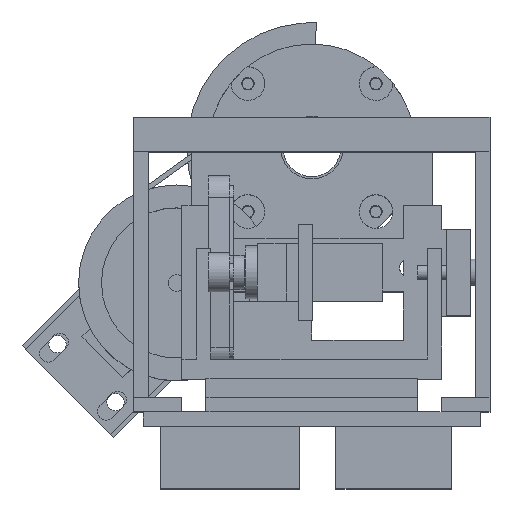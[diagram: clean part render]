
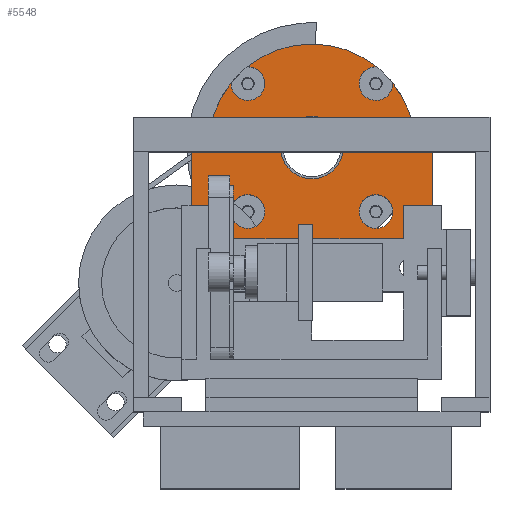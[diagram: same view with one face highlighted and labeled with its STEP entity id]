
A CAD part, top view. The second image highlights one B-rep face of the part: STEP entity #5548.
In plain terms, the highlighted planar face has unit normal (0, 0, 1).
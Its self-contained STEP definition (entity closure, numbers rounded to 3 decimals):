
#5510 = EDGE_CURVE('',#5511,#5513,#5515,.T.);
#5511 = VERTEX_POINT('',#5512);
#5512 = CARTESIAN_POINT('',(61.,113.,179.5));
#5513 = VERTEX_POINT('',#5514);
#5514 = CARTESIAN_POINT('',(56.291,126.428,179.5));
#5515 = CIRCLE('',#5516,21.5);
#5516 = AXIS2_PLACEMENT_3D('',#5517,#5518,#5519);
#5517 = CARTESIAN_POINT('',(39.5,113.,179.5));
#5518 = DIRECTION('',(0.,0.,1.));
#5519 = DIRECTION('',(1.,0.,0.));
#5548 = ADVANCED_FACE('',(#5549,#5644,#5655,#5666,#5677,#5688),#5708,.T.
  );
#5549 = FACE_BOUND('',#5550,.T.);
#5550 = EDGE_LOOP('',(#5551,#5559,#5560,#5569,#5578,#5587,#5596,#5605,
    #5614,#5622,#5630,#5638));
#5551 = ORIENTED_EDGE('',*,*,#5552,.F.);
#5552 = EDGE_CURVE('',#5511,#5553,#5555,.T.);
#5553 = VERTEX_POINT('',#5554);
#5554 = CARTESIAN_POINT('',(64.5,113.,179.5));
#5555 = LINE('',#5556,#5557);
#5556 = CARTESIAN_POINT('',(14.5,113.,179.5));
#5557 = VECTOR('',#5558,1.);
#5558 = DIRECTION('',(1.,0.,0.));
#5559 = ORIENTED_EDGE('',*,*,#5510,.T.);
#5560 = ORIENTED_EDGE('',*,*,#5561,.F.);
#5561 = EDGE_CURVE('',#5562,#5513,#5564,.T.);
#5562 = VERTEX_POINT('',#5563);
#5563 = CARTESIAN_POINT('',(56.294,126.294,179.5));
#5564 = CIRCLE('',#5565,3.5);
#5565 = AXIS2_PLACEMENT_3D('',#5566,#5567,#5568);
#5566 = CARTESIAN_POINT('',(52.794,126.294,179.5));
#5567 = DIRECTION('',(0.,0.,1.));
#5568 = DIRECTION('',(1.,0.,0.));
#5569 = ORIENTED_EDGE('',*,*,#5570,.F.);
#5570 = EDGE_CURVE('',#5571,#5562,#5573,.T.);
#5571 = VERTEX_POINT('',#5572);
#5572 = CARTESIAN_POINT('',(52.928,129.791,179.5));
#5573 = CIRCLE('',#5574,3.5);
#5574 = AXIS2_PLACEMENT_3D('',#5575,#5576,#5577);
#5575 = CARTESIAN_POINT('',(52.794,126.294,179.5));
#5576 = DIRECTION('',(0.,0.,1.));
#5577 = DIRECTION('',(1.,0.,0.));
#5578 = ORIENTED_EDGE('',*,*,#5579,.T.);
#5579 = EDGE_CURVE('',#5571,#5580,#5582,.T.);
#5580 = VERTEX_POINT('',#5581);
#5581 = CARTESIAN_POINT('',(26.072,129.791,179.5));
#5582 = CIRCLE('',#5583,21.5);
#5583 = AXIS2_PLACEMENT_3D('',#5584,#5585,#5586);
#5584 = CARTESIAN_POINT('',(39.5,113.,179.5));
#5585 = DIRECTION('',(0.,0.,1.));
#5586 = DIRECTION('',(1.,0.,0.));
#5587 = ORIENTED_EDGE('',*,*,#5588,.F.);
#5588 = EDGE_CURVE('',#5589,#5580,#5591,.T.);
#5589 = VERTEX_POINT('',#5590);
#5590 = CARTESIAN_POINT('',(29.706,126.294,179.5));
#5591 = CIRCLE('',#5592,3.5);
#5592 = AXIS2_PLACEMENT_3D('',#5593,#5594,#5595);
#5593 = CARTESIAN_POINT('',(26.206,126.294,179.5));
#5594 = DIRECTION('',(0.,0.,1.));
#5595 = DIRECTION('',(1.,0.,0.));
#5596 = ORIENTED_EDGE('',*,*,#5597,.F.);
#5597 = EDGE_CURVE('',#5598,#5589,#5600,.T.);
#5598 = VERTEX_POINT('',#5599);
#5599 = CARTESIAN_POINT('',(22.709,126.428,179.5));
#5600 = CIRCLE('',#5601,3.5);
#5601 = AXIS2_PLACEMENT_3D('',#5602,#5603,#5604);
#5602 = CARTESIAN_POINT('',(26.206,126.294,179.5));
#5603 = DIRECTION('',(0.,0.,1.));
#5604 = DIRECTION('',(1.,0.,0.));
#5605 = ORIENTED_EDGE('',*,*,#5606,.T.);
#5606 = EDGE_CURVE('',#5598,#5607,#5609,.T.);
#5607 = VERTEX_POINT('',#5608);
#5608 = CARTESIAN_POINT('',(18.,113.,179.5));
#5609 = CIRCLE('',#5610,21.5);
#5610 = AXIS2_PLACEMENT_3D('',#5611,#5612,#5613);
#5611 = CARTESIAN_POINT('',(39.5,113.,179.5));
#5612 = DIRECTION('',(0.,0.,1.));
#5613 = DIRECTION('',(1.,0.,0.));
#5614 = ORIENTED_EDGE('',*,*,#5615,.F.);
#5615 = EDGE_CURVE('',#5616,#5607,#5618,.T.);
#5616 = VERTEX_POINT('',#5617);
#5617 = CARTESIAN_POINT('',(14.5,113.,179.5));
#5618 = LINE('',#5619,#5620);
#5619 = CARTESIAN_POINT('',(14.5,113.,179.5));
#5620 = VECTOR('',#5621,1.);
#5621 = DIRECTION('',(1.,0.,0.));
#5622 = ORIENTED_EDGE('',*,*,#5623,.F.);
#5623 = EDGE_CURVE('',#5624,#5616,#5626,.T.);
#5624 = VERTEX_POINT('',#5625);
#5625 = CARTESIAN_POINT('',(14.5,83.,179.5));
#5626 = LINE('',#5627,#5628);
#5627 = CARTESIAN_POINT('',(14.5,83.,179.5));
#5628 = VECTOR('',#5629,1.);
#5629 = DIRECTION('',(0.,1.,0.));
#5630 = ORIENTED_EDGE('',*,*,#5631,.T.);
#5631 = EDGE_CURVE('',#5624,#5632,#5634,.T.);
#5632 = VERTEX_POINT('',#5633);
#5633 = CARTESIAN_POINT('',(64.5,83.,179.5));
#5634 = LINE('',#5635,#5636);
#5635 = CARTESIAN_POINT('',(14.5,83.,179.5));
#5636 = VECTOR('',#5637,1.);
#5637 = DIRECTION('',(1.,0.,0.));
#5638 = ORIENTED_EDGE('',*,*,#5639,.T.);
#5639 = EDGE_CURVE('',#5632,#5553,#5640,.T.);
#5640 = LINE('',#5641,#5642);
#5641 = CARTESIAN_POINT('',(64.5,83.,179.5));
#5642 = VECTOR('',#5643,1.);
#5643 = DIRECTION('',(0.,1.,0.));
#5644 = FACE_BOUND('',#5645,.T.);
#5645 = EDGE_LOOP('',(#5646));
#5646 = ORIENTED_EDGE('',*,*,#5647,.F.);
#5647 = EDGE_CURVE('',#5648,#5648,#5650,.T.);
#5648 = VERTEX_POINT('',#5649);
#5649 = CARTESIAN_POINT('',(21.3,88.,179.5));
#5650 = CIRCLE('',#5651,1.8);
#5651 = AXIS2_PLACEMENT_3D('',#5652,#5653,#5654);
#5652 = CARTESIAN_POINT('',(19.5,88.,179.5));
#5653 = DIRECTION('',(0.,0.,1.));
#5654 = DIRECTION('',(1.,0.,0.));
#5655 = FACE_BOUND('',#5656,.T.);
#5656 = EDGE_LOOP('',(#5657));
#5657 = ORIENTED_EDGE('',*,*,#5658,.F.);
#5658 = EDGE_CURVE('',#5659,#5659,#5661,.T.);
#5659 = VERTEX_POINT('',#5660);
#5660 = CARTESIAN_POINT('',(29.706,99.706,179.5));
#5661 = CIRCLE('',#5662,3.5);
#5662 = AXIS2_PLACEMENT_3D('',#5663,#5664,#5665);
#5663 = CARTESIAN_POINT('',(26.206,99.706,179.5));
#5664 = DIRECTION('',(0.,0.,1.));
#5665 = DIRECTION('',(1.,0.,0.));
#5666 = FACE_BOUND('',#5667,.T.);
#5667 = EDGE_LOOP('',(#5668));
#5668 = ORIENTED_EDGE('',*,*,#5669,.F.);
#5669 = EDGE_CURVE('',#5670,#5670,#5672,.T.);
#5670 = VERTEX_POINT('',#5671);
#5671 = CARTESIAN_POINT('',(61.3,88.,179.5));
#5672 = CIRCLE('',#5673,1.8);
#5673 = AXIS2_PLACEMENT_3D('',#5674,#5675,#5676);
#5674 = CARTESIAN_POINT('',(59.5,88.,179.5));
#5675 = DIRECTION('',(0.,0.,1.));
#5676 = DIRECTION('',(1.,0.,0.));
#5677 = FACE_BOUND('',#5678,.T.);
#5678 = EDGE_LOOP('',(#5679));
#5679 = ORIENTED_EDGE('',*,*,#5680,.F.);
#5680 = EDGE_CURVE('',#5681,#5681,#5683,.T.);
#5681 = VERTEX_POINT('',#5682);
#5682 = CARTESIAN_POINT('',(56.294,99.706,179.5));
#5683 = CIRCLE('',#5684,3.5);
#5684 = AXIS2_PLACEMENT_3D('',#5685,#5686,#5687);
#5685 = CARTESIAN_POINT('',(52.794,99.706,179.5));
#5686 = DIRECTION('',(0.,0.,1.));
#5687 = DIRECTION('',(1.,0.,0.));
#5688 = FACE_BOUND('',#5689,.T.);
#5689 = EDGE_LOOP('',(#5690,#5701));
#5690 = ORIENTED_EDGE('',*,*,#5691,.F.);
#5691 = EDGE_CURVE('',#5692,#5694,#5696,.T.);
#5692 = VERTEX_POINT('',#5693);
#5693 = CARTESIAN_POINT('',(46.,113.,179.5));
#5694 = VERTEX_POINT('',#5695);
#5695 = CARTESIAN_POINT('',(33.,113.,179.5));
#5696 = CIRCLE('',#5697,6.5);
#5697 = AXIS2_PLACEMENT_3D('',#5698,#5699,#5700);
#5698 = CARTESIAN_POINT('',(39.5,113.,179.5));
#5699 = DIRECTION('',(0.,0.,1.));
#5700 = DIRECTION('',(1.,0.,0.));
#5701 = ORIENTED_EDGE('',*,*,#5702,.F.);
#5702 = EDGE_CURVE('',#5694,#5692,#5703,.T.);
#5703 = CIRCLE('',#5704,6.5);
#5704 = AXIS2_PLACEMENT_3D('',#5705,#5706,#5707);
#5705 = CARTESIAN_POINT('',(39.5,113.,179.5));
#5706 = DIRECTION('',(0.,0.,1.));
#5707 = DIRECTION('',(1.,0.,0.));
#5708 = PLANE('',#5709);
#5709 = AXIS2_PLACEMENT_3D('',#5710,#5711,#5712);
#5710 = CARTESIAN_POINT('',(39.5,104.188,179.5));
#5711 = DIRECTION('',(0.,0.,1.));
#5712 = DIRECTION('',(1.,0.,0.));
